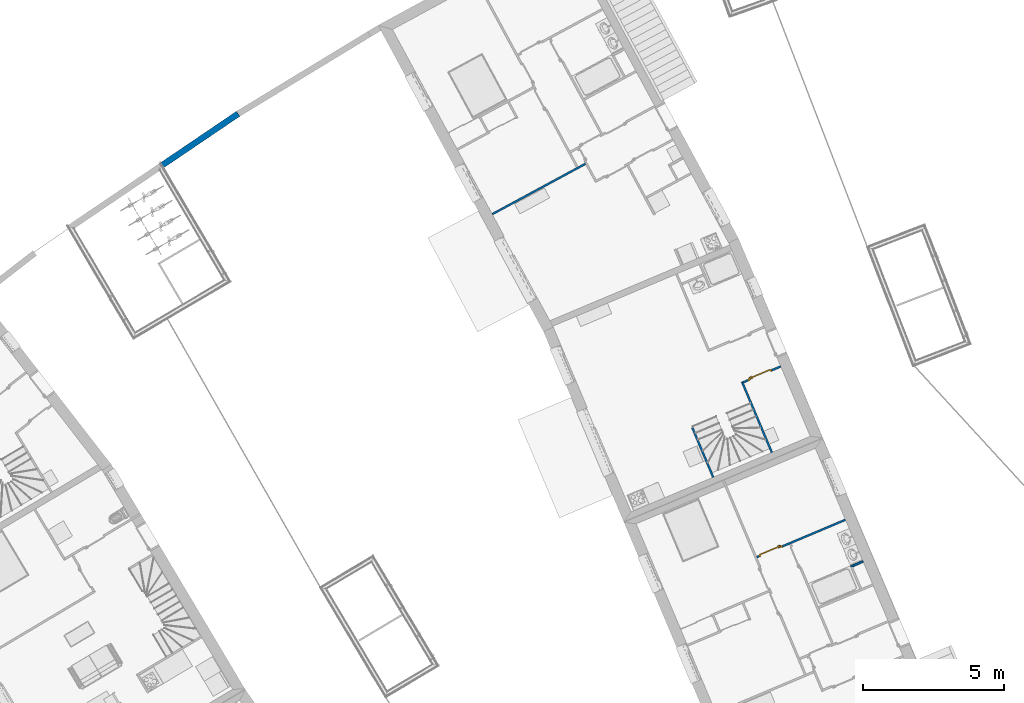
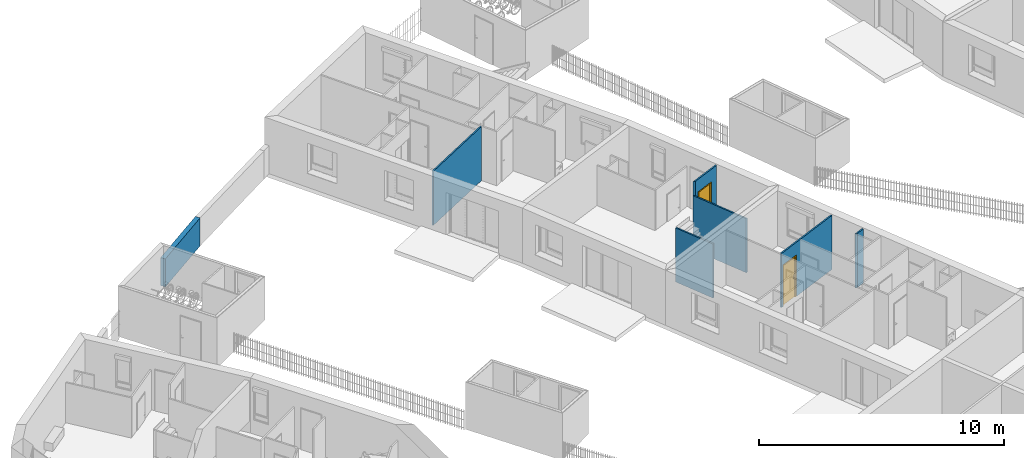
# One storey, part 59 of 195: 7 walls, 2 doors, 2 openings.
"""IFC2X3 building model written with IfcOpenShell, lengths in metres."""

from ifc_helpers import new_model, entity, si_unit, converted_unit, derived_unit, money_unit, direction, frame, origin_with_axes, origin_2d_with_axis, place, context, subcontext, project, spatial, polyline, rectangle, outline, extrude, faceted_brep, source, transform, mapped, material, layer, layer_set, layer_usage, type_object, element, fill, save


model = new_model("IFC2X3")

# Units and contexts
model_context = context("Model", 3, precision=1e-05, world=origin_with_axes(), true_north=direction((0.0, 1.0)))
body_context = subcontext(model_context, "Body", "Model", "MODEL_VIEW")
ifc_project = project(units=[si_unit("LENGTHUNIT", "METRE"), si_unit("AREAUNIT", "SQUARE_METRE"), si_unit("VOLUMEUNIT", "CUBIC_METRE"), converted_unit("PLANEANGLEUNIT", "DEGREE", entity("IfcPlaneAngleMeasure", 0.0174532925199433), si_unit("PLANEANGLEUNIT", "RADIAN"), dimensions=[0, 0, 0, 0, 0, 0, 0]), money_unit("CHF"), converted_unit("TIMEUNIT", "Year", entity("IfcTimeMeasure", 31557600.0), si_unit("TIMEUNIT", "SECOND"), dimensions=[0, 0, 1, 0, 0, 0, 0]), si_unit("MASSUNIT", "GRAM", prefix="KILO"), si_unit("THERMODYNAMICTEMPERATUREUNIT", "DEGREE_CELSIUS"), si_unit("LUMINOUSINTENSITYUNIT", "LUMEN"), si_unit("ENERGYUNIT", "JOULE", prefix="MEGA"), derived_unit("THERMALCONDUCTANCEUNIT", [(si_unit("POWERUNIT", "WATT"), 1), (si_unit("LENGTHUNIT", "METRE"), -1), (si_unit("THERMODYNAMICTEMPERATUREUNIT", "KELVIN"), -1)]), derived_unit("SPECIFICHEATCAPACITYUNIT", [(si_unit("ENERGYUNIT", "JOULE"), 1), (si_unit("MASSUNIT", "GRAM", prefix="KILO"), -1), (si_unit("THERMODYNAMICTEMPERATUREUNIT", "KELVIN"), -1)]), derived_unit("MASSDENSITYUNIT", [(si_unit("MASSUNIT", "GRAM", prefix="KILO"), 1), (si_unit("VOLUMEUNIT", "CUBIC_METRE"), -1)])], contexts=[model_context])

# Site, building, storey
site_placement = place(None, origin_with_axes())
site = spatial("IfcSite", under=ifc_project, at=site_placement, Name="Site", CompositionType="ELEMENT")
building_placement = place(site_placement, origin_with_axes())
building = spatial("IfcBuilding", under=site, at=building_placement, Name="Bâtiment", CompositionType="ELEMENT")
storey_placement = place(building_placement, origin_with_axes())
storey = spatial("IfcBuildingStorey", under=building, at=storey_placement, Name="rdc", CompositionType="ELEMENT", Elevation=0.0)

# Walls
ifc_material_1 = material(Name="Hachure solide 268963992")
ifc_layer_1 = layer(ifc_material_1, 0.07, ventilated="UNKNOWN")
ifc_layer_set_1 = layer_set([ifc_layer_1], Name="Cloison 70 0826278243")
ifc_layer_usage_1 = layer_usage(ifc_layer_set_1, "AXIS2", "NEGATIVE", 0.0)
wall_type_1 = type_object("IfcWallType", Name="Cloison 70 0826278243 70", PredefinedType="NOTDEFINED")
wall_1_placement = place(storey_placement, frame((9565.753443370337, -1041.968087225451, 57.0), z_axis=(0.0, 0.0, 1.0), x_axis=(0.3885669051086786, -0.9214205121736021, 0.0)))
element("IfcWallStandardCase", 1, at=wall_1_placement, inside=storey, type_object=wall_type_1, material=ifc_layer_usage_1, Name="Mur-149", context=body_context, shape_type="SweptSolid", body=[
    extrude(outline(polyline([(0.0, -0.06999999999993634), (1.906688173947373, -0.07000000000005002), (1.906688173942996, 0.0), (0.0, 0.0), (0.0, -0.06999999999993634)])), origin_with_axes(), (0.0, 0.0, 1.0), 2.7),
])
ifc_layer_usage_2 = layer_usage(ifc_layer_set_1, "AXIS2", "POSITIVE", 0.0)
wall_2_placement = place(storey_placement, frame((9567.452455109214, -1040.355982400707, 57.0), z_axis=(0.0, 0.0, 1.0), x_axis=(0.3885669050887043, -0.9214205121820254, 0.0)))
element("IfcWallStandardCase", 2, at=wall_2_placement, inside=storey, type_object=wall_type_1, material=ifc_layer_usage_2, Name="Mur-149", context=body_context, shape_type="SweptSolid", body=[
    extrude(outline(polyline([(0.0, 0.0), (2.731934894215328, 0.0), (2.731934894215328, 0.07000000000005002), (0.06999999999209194, 0.07000000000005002), (0.0, 0.0)])), origin_with_axes(), (0.0, 0.0, 1.0), 2.7),
])

# Wall, opening, door
ifc_layer_usage_3 = layer_usage(ifc_layer_set_1, "AXIS2", "NEGATIVE", 0.0)
wall_3_placement = place(storey_placement, frame((9567.452455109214, -1040.355982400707, 57.7), z_axis=(0.0, 0.0, 1.0), x_axis=(0.9214205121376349, 0.3885669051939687, 0.0)))
wall_3 = element("IfcWallStandardCase", 3, at=wall_3_placement, inside=storey, type_object=wall_type_1, material=ifc_layer_usage_3, Name="Mur-149", context=body_context, shape_type="SweptSolid", body=[
    extrude(outline(polyline([(0.06999999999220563, -0.07000000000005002), (1.517035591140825, -0.06999999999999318), (1.517035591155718, 0.0), (0.0, 0.0), (0.06999999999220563, -0.07000000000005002)])), origin_with_axes(), (0.0, 0.0, 1.0), 2.7),
])
opening_1_placement = place(wall_3_placement, frame((0.7111589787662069, 0.0, 0.0), z_axis=(0.0, 0.0, 1.0), x_axis=(1.0, 0.0, 0.0)))
opening_1 = element("IfcOpeningElement", 4, at=opening_1_placement, cuts=wall_3, Name="Por-301", context=body_context, shape_type="SweptSolid", body=[
    extrude(rectangle(XDim=0.9099999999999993, YDim=2.079999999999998, at=origin_2d_with_axis()), frame((0.0, -0.06999999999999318, 1.039999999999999), z_axis=(0.0, 1.0, 0.0), x_axis=(1.0, 0.0, 0.0)), (0.0, 0.0, 1.0), 0.14),
])
door_style = type_object("IfcDoorStyle", Name="Porte_1v", ConstructionType="NOTDEFINED", OperationType="NOTDEFINED", ParameterTakesPrecedence=False, Sizeable=False)
shared_shape_1 = source(origin_with_axes(), body_context, "Body", "Brep", [
    faceted_brep([(0.455, 0.0, 0.0), (0.415, 0.0, 0.0), (0.415, 0.0, 2.04), (-0.415, 0.0, 2.04), (-0.415, 0.0, 0.0), (-0.455, 0.0, 0.0), (-0.455, 0.0, 2.08), (0.455, 0.0, 2.08), (0.455, -0.07, 0.0), (0.4, -0.07, 0.0), (0.4, -0.015, 0.0), (0.415, -0.015, 0.0), (0.415, -0.015, 2.04), (-0.415, -0.015, 2.04), (-0.415, -0.015, 0.0), (-0.4, -0.015, 0.0), (-0.4, -0.07, 0.0), (-0.455, -0.07, 0.0), (-0.455, -0.07, 2.08), (0.455, -0.07, 2.08), (-0.4, -0.07, 2.025), (0.4, -0.07, 2.025), (0.4, -0.015, 2.025), (-0.4, -0.015, 2.025)], [[[0, 1, 2, 3, 4, 5, 6, 7]], [[0, 8, 9, 10, 11, 1]], [[1, 11, 12, 2]], [[2, 12, 13, 3]], [[3, 13, 14, 4]], [[5, 4, 14, 15, 16, 17]], [[18, 6, 5, 17]], [[19, 7, 6, 18]], [[8, 0, 7, 19]], [[9, 8, 19, 18, 17, 16, 20, 21]], [[10, 9, 21, 22]], [[11, 10, 22, 23, 15, 14, 13, 12]], [[23, 20, 16, 15]], [[22, 21, 20, 23]]]),
    faceted_brep([(-0.35, -0.015, 0.9), (-0.39, -0.015, 0.9), (-0.39, -0.015, 1.1), (-0.35, -0.015, 1.1), (-0.35, -0.025, 0.9), (-0.39, -0.025, 0.9), (-0.39, -0.025, 1.1), (-0.35, -0.025, 1.1)], [[[0, 1, 2, 3]], [[1, 0, 4, 5]], [[2, 1, 5, 6]], [[3, 2, 6, 7]], [[0, 3, 7, 4]], [[5, 4, 7, 6]]]),
    faceted_brep([(-0.28, -0.025, 1.0), (-0.38, -0.025, 1.0), (-0.38, -0.025, 1.02), (-0.28, -0.025, 1.02), (-0.28, -0.045, 1.0), (-0.38, -0.045, 1.0), (-0.38, -0.045, 1.02), (-0.28, -0.045, 1.02)], [[[0, 1, 2, 3]], [[1, 0, 4, 5]], [[2, 1, 5, 6]], [[3, 2, 6, 7]], [[0, 3, 7, 4]], [[5, 4, 7, 6]]]),
    faceted_brep([(-0.35, 0.035, 0.9), (-0.39, 0.035, 0.9), (-0.39, 0.035, 1.1), (-0.35, 0.035, 1.1), (-0.35, 0.025, 0.9), (-0.39, 0.025, 0.9), (-0.39, 0.025, 1.1), (-0.35, 0.025, 1.1)], [[[0, 1, 2, 3]], [[1, 0, 4, 5]], [[2, 1, 5, 6]], [[3, 2, 6, 7]], [[0, 3, 7, 4]], [[5, 4, 7, 6]]]),
    faceted_brep([(-0.28, 0.05500000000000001, 1.0), (-0.38, 0.05500000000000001, 1.0), (-0.38, 0.05500000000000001, 1.02), (-0.28, 0.05500000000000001, 1.02), (-0.28, 0.035, 1.0), (-0.38, 0.035, 1.0), (-0.38, 0.035, 1.02), (-0.28, 0.035, 1.02)], [[[0, 1, 2, 3]], [[1, 0, 4, 5]], [[2, 1, 5, 6]], [[3, 2, 6, 7]], [[0, 3, 7, 4]], [[5, 4, 7, 6]]]),
    faceted_brep([(-0.415, 0.025, 0.0), (0.415, 0.025, 0.0), (0.415, -0.015, 0.0), (-0.415, -0.015, 0.0), (-0.415, 0.025, 2.04), (0.415, 0.025, 2.04), (0.415, -0.015, 2.04), (-0.415, -0.015, 2.04)], [[[0, 1, 2, 3]], [[0, 4, 5, 1]], [[1, 5, 6, 2]], [[3, 2, 6, 7]], [[4, 0, 3, 7]], [[5, 4, 7, 6]]]),
])
door_1_placement = place(opening_1_placement, frame((-0.4150000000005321, 0.0, 0.0), z_axis=(0.0, 0.0, 1.0), x_axis=(1.0, 0.0, 0.0)))
door_1 = element("IfcDoor", 5, at=door_1_placement, inside=storey, type_object=door_style, Name="Por-301", OverallHeight=2.04, OverallWidth=0.83, context=body_context, shape_type="MappedRepresentation", body=[
    mapped(shared_shape_1, transform((0.4150000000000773, 0.0, 0.0))),
])
fill(opening_1, door_1)

# Wall
ifc_layer_usage_4 = layer_usage(ifc_layer_set_1, "AXIS2", "POSITIVE", 0.0)
wall_4_placement = place(storey_placement, frame((9561.899256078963, -1032.568301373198, 57.7), z_axis=(0.0, 0.0, 1.0), x_axis=(-0.8798137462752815, -0.475318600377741, 0.0)))
element("IfcWallStandardCase", 6, at=wall_4_placement, inside=storey, type_object=wall_type_1, material=ifc_layer_usage_4, Name="Mur-149", context=body_context, shape_type="SweptSolid", body=[
    extrude(outline(polyline([(-4.941966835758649e-10, 0.0), (3.761145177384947, 0.0), (3.761145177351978, 0.07000000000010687), (-5.168203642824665e-10, 0.07000000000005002), (-4.941966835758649e-10, 0.0)])), origin_with_axes(), (0.0, 0.0, 1.0), 2.7),
])

# Wall, opening, door
ifc_layer_usage_5 = layer_usage(ifc_layer_set_1, "AXIS2", "NEGATIVE", 0.0)
wall_5_placement = place(storey_placement, frame((9571.52614512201, -1045.133913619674, 57.7), z_axis=(0.0, 0.0, 1.0), x_axis=(-0.9214205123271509, -0.3885669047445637, 0.0)))
wall_5 = element("IfcWallStandardCase", 7, at=wall_5_placement, inside=storey, type_object=wall_type_1, material=ifc_layer_usage_5, Name="Mur-149", context=body_context, shape_type="SweptSolid", body=[
    extrude(outline(polyline([(0.3800000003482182, -0.06999999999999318), (3.798769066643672, -0.06999999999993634), (3.798769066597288, 0.0), (0.3800000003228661, 0.0), (0.3800000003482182, -0.06999999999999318)])), origin_with_axes(), (0.0, 0.0, 1.0), 2.7),
])
opening_2_placement = place(wall_5_placement, frame((3.258124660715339, 0.0, 0.0), z_axis=(0.0, 0.0, 1.0), x_axis=(1.0, 0.0, 0.0)))
opening_2 = element("IfcOpeningElement", 8, at=opening_2_placement, cuts=wall_5, Name="Por-303", context=body_context, shape_type="SweptSolid", body=[
    extrude(rectangle(XDim=0.9099999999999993, YDim=2.079999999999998, at=origin_2d_with_axis()), frame((0.0, 0.06999999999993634, 1.039999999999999), z_axis=(0.0, 1.0, 0.0), x_axis=(1.0, 0.0, 0.0)), (0.0, 0.0, -1.0), 0.14),
])
shared_shape_2 = source(origin_with_axes(), body_context, "Body", "Brep", [
    faceted_brep([(-0.455, 0.0, 0.0), (-0.455, 0.0, 2.08), (0.455, 0.0, 2.08), (0.455, 0.0, 0.0), (0.415, 0.0, 0.0), (0.415, 0.0, 2.04), (-0.415, 0.0, 2.04), (-0.415, 0.0, 0.0), (-0.455, -0.07, 0.0), (-0.455, -0.07, 2.08), (0.455, -0.07, 2.08), (0.455, -0.07, 0.0), (0.4, -0.07, 0.0), (0.4, -0.015, 0.0), (0.415, -0.015, 0.0), (0.415, -0.015, 2.04), (-0.415, -0.015, 2.04), (-0.415, -0.015, 0.0), (-0.4, -0.015, 0.0), (-0.4, -0.07, 0.0), (-0.4, -0.07, 2.025), (0.4, -0.07, 2.025), (0.4, -0.015, 2.025), (-0.4, -0.015, 2.025)], [[[0, 1, 2, 3, 4, 5, 6, 7]], [[8, 9, 1, 0]], [[9, 10, 2, 1]], [[10, 11, 3, 2]], [[3, 11, 12, 13, 14, 4]], [[5, 4, 14, 15]], [[6, 5, 15, 16]], [[7, 6, 16, 17]], [[0, 7, 17, 18, 19, 8]], [[19, 20, 21, 12, 11, 10, 9, 8]], [[22, 13, 12, 21]], [[17, 16, 15, 14, 13, 22, 23, 18]], [[18, 23, 20, 19]], [[23, 22, 21, 20]]]),
    faceted_brep([(0.35, -0.015, 0.9), (0.35, -0.015, 1.1), (0.39, -0.015, 1.1), (0.39, -0.015, 0.9), (0.35, -0.025, 0.9), (0.35, -0.025, 1.1), (0.39, -0.025, 1.1), (0.39, -0.025, 0.9)], [[[0, 1, 2, 3]], [[0, 4, 5, 1]], [[1, 5, 6, 2]], [[2, 6, 7, 3]], [[3, 7, 4, 0]], [[7, 6, 5, 4]]]),
    faceted_brep([(0.28, -0.025, 1.0), (0.28, -0.025, 1.02), (0.38, -0.025, 1.02), (0.38, -0.025, 1.0), (0.28, -0.045, 1.0), (0.28, -0.045, 1.02), (0.38, -0.045, 1.02), (0.38, -0.045, 1.0)], [[[0, 1, 2, 3]], [[0, 4, 5, 1]], [[1, 5, 6, 2]], [[2, 6, 7, 3]], [[3, 7, 4, 0]], [[7, 6, 5, 4]]]),
    faceted_brep([(0.35, 0.035, 0.9), (0.35, 0.035, 1.1), (0.39, 0.035, 1.1), (0.39, 0.035, 0.9), (0.35, 0.025, 0.9), (0.35, 0.025, 1.1), (0.39, 0.025, 1.1), (0.39, 0.025, 0.9)], [[[0, 1, 2, 3]], [[0, 4, 5, 1]], [[1, 5, 6, 2]], [[2, 6, 7, 3]], [[3, 7, 4, 0]], [[7, 6, 5, 4]]]),
    faceted_brep([(0.28, 0.05500000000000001, 1.0), (0.28, 0.05500000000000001, 1.02), (0.38, 0.05500000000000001, 1.02), (0.38, 0.05500000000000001, 1.0), (0.28, 0.035, 1.0), (0.28, 0.035, 1.02), (0.38, 0.035, 1.02), (0.38, 0.035, 1.0)], [[[0, 1, 2, 3]], [[0, 4, 5, 1]], [[1, 5, 6, 2]], [[2, 6, 7, 3]], [[3, 7, 4, 0]], [[7, 6, 5, 4]]]),
    faceted_brep([(0.415, 0.025, 0.0), (0.415, -0.015, 0.0), (-0.415, -0.015, 0.0), (-0.415, 0.025, 0.0), (0.415, 0.025, 2.04), (0.415, -0.015, 2.04), (-0.415, -0.015, 2.04), (-0.415, 0.025, 2.04)], [[[0, 1, 2, 3]], [[4, 5, 1, 0]], [[1, 5, 6, 2]], [[3, 2, 6, 7]], [[0, 3, 7, 4]], [[7, 6, 5, 4]]]),
])
door_2_placement = place(opening_2_placement, frame((0.4149999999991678, 0.0, 0.0), z_axis=(0.0, 0.0, 1.0), x_axis=(-1.0, 0.0, 0.0)))
door_2 = element("IfcDoor", 9, at=door_2_placement, inside=storey, type_object=door_style, Name="Por-303", OverallHeight=2.04, OverallWidth=0.83, context=body_context, shape_type="MappedRepresentation", body=[
    mapped(shared_shape_2, transform((0.4149999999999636, 0.06999999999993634, 0.0))),
])
fill(opening_2, door_2)

# Walls
ifc_layer_usage_6 = layer_usage(ifc_layer_set_1, "AXIS2", "NEGATIVE", 0.0)
wall_6_placement = place(storey_placement, frame((9572.151102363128, -1046.615893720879, 57.7), z_axis=(0.0, 0.0, 1.0), x_axis=(-0.9214205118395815, -0.3885669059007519, 0.0)))
element("IfcWallStandardCase", 10, at=wall_6_placement, inside=storey, type_object=wall_type_1, material=ifc_layer_usage_6, Name="Mur-149", context=body_context, shape_type="SweptSolid", body=[
    extrude(outline(polyline([(0.3800000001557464, -0.07000000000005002), (0.867013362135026, -0.07000000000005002), (0.7970133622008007, 0.0), (0.3800000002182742, 0.0), (0.3800000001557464, -0.07000000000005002)])), origin_with_axes(), (0.0, 0.0, 1.0), 2.7),
])
ifc_material_2 = material(Name="Empty Fill 3000033799")
ifc_layer_2 = layer(ifc_material_2, 0.22, ventilated="UNKNOWN")
ifc_layer_set_2 = layer_set([ifc_layer_2], Name="acrotère 22")
ifc_layer_usage_7 = layer_usage(ifc_layer_set_2, "AXIS2", "POSITIVE", 0.0)
wall_type_2 = type_object("IfcWallType", Name="acrotère 22 220", PredefinedType="NOTDEFINED")
wall_7_placement = place(storey_placement, frame((9549.517912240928, -1030.725233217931, 57.7), z_axis=(0.0, 0.0, 1.0), x_axis=(-0.8280009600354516, -0.5607266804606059, 0.0)))
element("IfcWallStandardCase", 11, at=wall_7_placement, inside=storey, type_object=wall_type_2, material=ifc_layer_usage_7, Name="Mur-108", context=body_context, shape_type="SweptSolid", body=[
    extrude(outline(polyline([(0.0, 0.0), (3.260769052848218, 0.0), (3.260769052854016, 0.2200000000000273), (0.005402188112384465, 0.2200000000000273), (0.0, 0.0)])), origin_with_axes(), (0.0, 0.0, 1.0), 1.4),
])

save(model, "model.ifc")
